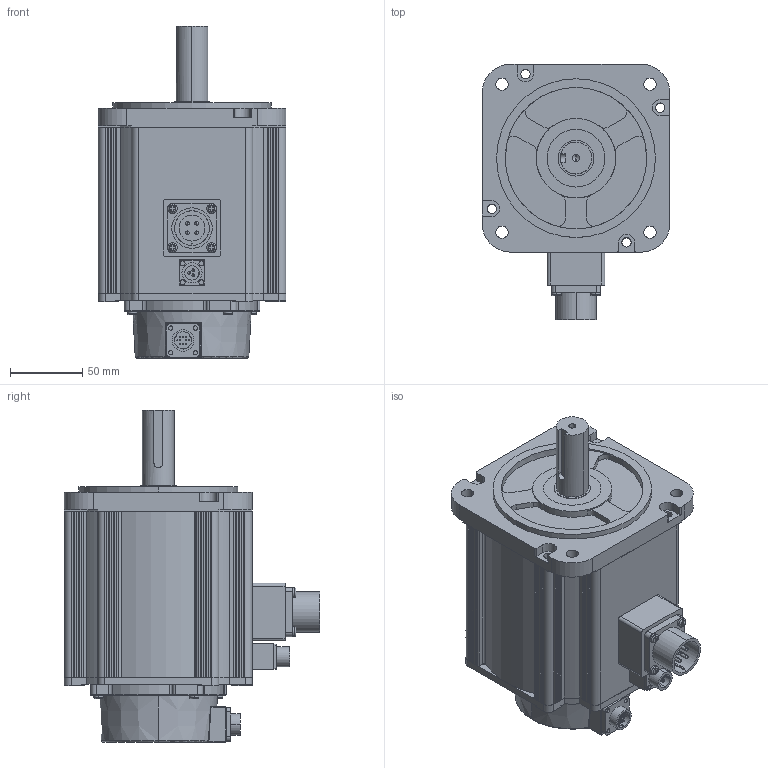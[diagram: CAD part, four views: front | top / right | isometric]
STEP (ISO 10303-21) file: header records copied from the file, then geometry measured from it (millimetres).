
FILE_DESCRIPTION (( 'STEP AP203' ), '1' );
FILE_NAME ('130E-08415 - Z.STEP', '2024-12-30T12:19:09', ( '' ), ( '' ), 'SwSTEP 2.0', 'SolidWorks 2020', '' );
FILE_SCHEMA (( 'CONFIG_CONTROL_DESIGN' ));
Length unit declared in the file: millimetre
Products named in the file (12): 橈勤硉晤鎢ん誘欶  S13E.10-01; 堤粣; 100惕掅菁釱; 130A諉盄釱-1; SC-CMV1-R10P-E; 蚐猾; 130A綴裔潠謹; 18-10; 130E-08415 - Z; 130Aǰ; 儂褲-8.4N.M -Z; XS12J3Z
Assembly tree (11 placements, depth 2):
  130E-08415 - Z
    130A綴裔潠謹
    130A諉盄釱-1
    130Aǰ
    堤粣
    蚐猾
    XS12J3Z
    100惕掅菁釱
    儂褲-8.4N.M -Z
    18-10
    SC-CMV1-R10P-E
    橈勤硉晤鎢ん誘欶  S13E.10-01
Bounding box: 130.2 x 176.9 x 230 mm (x, y, z)
Volume: 720857.9 mm3; surface area: 308119 mm2
Topology: 11 solids, 15 shells, 975 faces, 2606 edges, 1701 vertices
Faces by surface type: plane 537, cylinder 357, torus 45, sphere 18, cone 10, bspline 8
Entity records: 32640 total; most frequent: CARTESIAN_POINT 6397, DIRECTION 5326, ORIENTED_EDGE 5132, EDGE_CURVE 2566, AXIS2_PLACEMENT_3D 1822, VERTEX_POINT 1683, VECTOR 1682, LINE 1682
